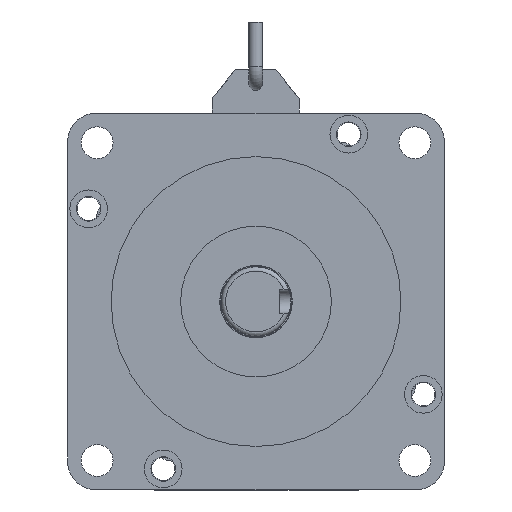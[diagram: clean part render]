
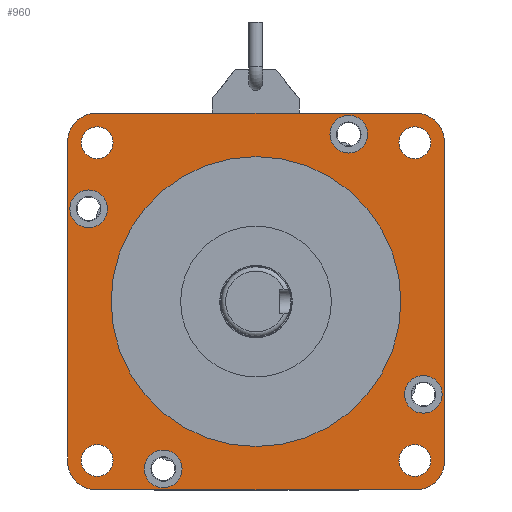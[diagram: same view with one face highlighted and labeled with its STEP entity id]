
A CAD part, front view. The second image highlights one B-rep face of the part: STEP entity #960.
In plain terms, the highlighted planar face has unit normal (0, -1, 0).
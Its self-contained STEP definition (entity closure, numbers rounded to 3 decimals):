
#960=ADVANCED_FACE('',(#3285,#3286,#3287,#3288,#3289,#3290,#3291,#3292,
#3293,#3294),#1276,.T.);
#1276=PLANE('',#8758);
#2117=LINE('',#13292,#2979);
#2124=LINE('',#13306,#2986);
#2131=LINE('',#13320,#2993);
#2138=LINE('',#13334,#3000);
#2979=VECTOR('',#10678,1.);
#2986=VECTOR('',#10687,1.);
#2993=VECTOR('',#10696,1.);
#3000=VECTOR('',#10705,1.);
#3285=FACE_BOUND('',#3895,.T.);
#3286=FACE_BOUND('',#3896,.T.);
#3287=FACE_BOUND('',#3897,.T.);
#3288=FACE_BOUND('',#3898,.T.);
#3289=FACE_BOUND('',#3899,.T.);
#3290=FACE_BOUND('',#3900,.T.);
#3291=FACE_BOUND('',#3901,.T.);
#3292=FACE_BOUND('',#3902,.T.);
#3293=FACE_BOUND('',#3903,.T.);
#3294=FACE_BOUND('',#3904,.T.);
#3895=EDGE_LOOP('',(#5976));
#3896=EDGE_LOOP('',(#5977));
#3897=EDGE_LOOP('',(#5978));
#3898=EDGE_LOOP('',(#5979));
#3899=EDGE_LOOP('',(#5980));
#3900=EDGE_LOOP('',(#5981));
#3901=EDGE_LOOP('',(#5982));
#3902=EDGE_LOOP('',(#5983));
#3903=EDGE_LOOP('',(#5984));
#3904=EDGE_LOOP('',(#5985,#5986,#5987,#5988,#5989,#5990,#5991,#5992));
#5976=ORIENTED_EDGE('',*,*,#7923,.T.);
#5977=ORIENTED_EDGE('',*,*,#7921,.T.);
#5978=ORIENTED_EDGE('',*,*,#7919,.T.);
#5979=ORIENTED_EDGE('',*,*,#7917,.T.);
#5980=ORIENTED_EDGE('',*,*,#7908,.T.);
#5981=ORIENTED_EDGE('',*,*,#7906,.T.);
#5982=ORIENTED_EDGE('',*,*,#7904,.T.);
#5983=ORIENTED_EDGE('',*,*,#7910,.T.);
#5984=ORIENTED_EDGE('',*,*,#7926,.T.);
#5985=ORIENTED_EDGE('',*,*,#7888,.F.);
#5986=ORIENTED_EDGE('',*,*,#7897,.T.);
#5987=ORIENTED_EDGE('',*,*,#7895,.F.);
#5988=ORIENTED_EDGE('',*,*,#7903,.T.);
#5989=ORIENTED_EDGE('',*,*,#7874,.F.);
#5990=ORIENTED_EDGE('',*,*,#7901,.T.);
#5991=ORIENTED_EDGE('',*,*,#7881,.F.);
#5992=ORIENTED_EDGE('',*,*,#7899,.T.);
#6812=VERTEX_POINT('',#13281);
#6817=VERTEX_POINT('',#13291);
#6818=VERTEX_POINT('',#13295);
#6823=VERTEX_POINT('',#13305);
#6824=VERTEX_POINT('',#13309);
#6829=VERTEX_POINT('',#13319);
#6830=VERTEX_POINT('',#13323);
#6835=VERTEX_POINT('',#13333);
#6836=VERTEX_POINT('',#13349);
#6838=VERTEX_POINT('',#13354);
#6840=VERTEX_POINT('',#13359);
#6842=VERTEX_POINT('',#13364);
#6849=VERTEX_POINT('',#13383);
#6851=VERTEX_POINT('',#13388);
#6853=VERTEX_POINT('',#13393);
#6855=VERTEX_POINT('',#13398);
#6858=VERTEX_POINT('',#13407);
#7874=EDGE_CURVE('',#6817,#6812,#2117,.T.);
#7881=EDGE_CURVE('',#6823,#6818,#2124,.T.);
#7888=EDGE_CURVE('',#6829,#6824,#2131,.T.);
#7895=EDGE_CURVE('',#6835,#6830,#2138,.T.);
#7897=EDGE_CURVE('',#6829,#6830,#8131,.T.);
#7899=EDGE_CURVE('',#6823,#6824,#8133,.T.);
#7901=EDGE_CURVE('',#6817,#6818,#8135,.T.);
#7903=EDGE_CURVE('',#6835,#6812,#8137,.T.);
#7904=EDGE_CURVE('',#6836,#6836,#8138,.T.);
#7906=EDGE_CURVE('',#6838,#6838,#8140,.T.);
#7908=EDGE_CURVE('',#6840,#6840,#8142,.T.);
#7910=EDGE_CURVE('',#6842,#6842,#8144,.T.);
#7917=EDGE_CURVE('',#6849,#6849,#8151,.T.);
#7919=EDGE_CURVE('',#6851,#6851,#8153,.T.);
#7921=EDGE_CURVE('',#6853,#6853,#8155,.T.);
#7923=EDGE_CURVE('',#6855,#6855,#8157,.T.);
#7926=EDGE_CURVE('',#6858,#6858,#8160,.T.);
#8131=CIRCLE('',#8709,10.);
#8133=CIRCLE('',#8712,10.);
#8135=CIRCLE('',#8715,10.);
#8137=CIRCLE('',#8718,10.);
#8138=CIRCLE('',#8720,5.5);
#8140=CIRCLE('',#8723,5.5);
#8142=CIRCLE('',#8726,5.5);
#8144=CIRCLE('',#8729,5.5);
#8151=CIRCLE('',#8741,6.5);
#8153=CIRCLE('',#8744,6.5);
#8155=CIRCLE('',#8747,6.5);
#8157=CIRCLE('',#8750,6.5);
#8160=CIRCLE('',#8756,50.);
#8709=AXIS2_PLACEMENT_3D('',#13337,#10710,#10711);
#8712=AXIS2_PLACEMENT_3D('',#13340,#10716,#10717);
#8715=AXIS2_PLACEMENT_3D('',#13343,#10722,#10723);
#8718=AXIS2_PLACEMENT_3D('',#13346,#10728,#10729);
#8720=AXIS2_PLACEMENT_3D('',#13348,#10732,#10733);
#8723=AXIS2_PLACEMENT_3D('',#13353,#10738,#10739);
#8726=AXIS2_PLACEMENT_3D('',#13358,#10744,#10745);
#8729=AXIS2_PLACEMENT_3D('',#13363,#10750,#10751);
#8741=AXIS2_PLACEMENT_3D('',#13382,#10774,#10775);
#8744=AXIS2_PLACEMENT_3D('',#13387,#10780,#10781);
#8747=AXIS2_PLACEMENT_3D('',#13392,#10786,#10787);
#8750=AXIS2_PLACEMENT_3D('',#13397,#10792,#10793);
#8756=AXIS2_PLACEMENT_3D('',#13406,#10804,#10805);
#8758=AXIS2_PLACEMENT_3D('',#13409,#10808,#10809);
#10678=DIRECTION('',(0.,0.,1.));
#10687=DIRECTION('',(-1.,0.,0.));
#10696=DIRECTION('',(0.,0.,-1.));
#10705=DIRECTION('',(1.,0.,0.));
#10710=DIRECTION('',(0.,-1.,0.));
#10711=DIRECTION('',(-1.,0.,0.));
#10716=DIRECTION('',(0.,-1.,0.));
#10717=DIRECTION('',(-1.,0.,0.));
#10722=DIRECTION('',(0.,-1.,0.));
#10723=DIRECTION('',(-1.,0.,0.));
#10728=DIRECTION('',(0.,-1.,0.));
#10729=DIRECTION('',(-1.,0.,0.));
#10732=DIRECTION('',(0.,1.,0.));
#10733=DIRECTION('',(0.,0.,1.));
#10738=DIRECTION('',(0.,1.,0.));
#10739=DIRECTION('',(-1.,0.,0.));
#10744=DIRECTION('',(0.,1.,0.));
#10745=DIRECTION('',(0.,0.,-1.));
#10750=DIRECTION('',(0.,1.,0.));
#10751=DIRECTION('',(1.,0.,0.));
#10774=DIRECTION('',(0.,1.,0.));
#10775=DIRECTION('',(0.,0.,1.));
#10780=DIRECTION('',(0.,1.,0.));
#10781=DIRECTION('',(-1.,0.,0.));
#10786=DIRECTION('',(0.,1.,0.));
#10787=DIRECTION('',(0.,0.,-1.));
#10792=DIRECTION('',(0.,1.,0.));
#10793=DIRECTION('',(1.,0.,0.));
#10804=DIRECTION('',(0.,1.,0.));
#10805=DIRECTION('',(-1.,0.,0.));
#10808=DIRECTION('',(0.,-1.,0.));
#10809=DIRECTION('',(-1.,0.,0.));
#13281=CARTESIAN_POINT('',(478.536,-994.118,102.721));
#13291=CARTESIAN_POINT('',(478.536,-994.118,-7.279));
#13292=CARTESIAN_POINT('',(478.536,-994.118,47.721));
#13295=CARTESIAN_POINT('',(488.536,-994.118,-17.279));
#13305=CARTESIAN_POINT('',(598.536,-994.118,-17.279));
#13306=CARTESIAN_POINT('',(543.536,-994.118,-17.279));
#13309=CARTESIAN_POINT('',(608.536,-994.118,-7.279));
#13319=CARTESIAN_POINT('',(608.536,-994.118,102.721));
#13320=CARTESIAN_POINT('',(608.536,-994.118,47.721));
#13323=CARTESIAN_POINT('',(598.536,-994.118,112.721));
#13333=CARTESIAN_POINT('',(488.536,-994.118,112.721));
#13334=CARTESIAN_POINT('',(543.536,-994.118,112.721));
#13337=CARTESIAN_POINT('',(598.536,-994.118,102.721));
#13340=CARTESIAN_POINT('',(598.536,-994.118,-7.279));
#13343=CARTESIAN_POINT('',(488.536,-994.118,-7.279));
#13346=CARTESIAN_POINT('',(488.536,-994.118,102.721));
#13348=CARTESIAN_POINT('',(598.337,-994.118,102.522));
#13349=CARTESIAN_POINT('',(598.337,-994.118,108.022));
#13353=CARTESIAN_POINT('',(488.736,-994.118,102.522));
#13354=CARTESIAN_POINT('',(483.236,-994.118,102.522));
#13358=CARTESIAN_POINT('',(488.736,-994.118,-7.079));
#13359=CARTESIAN_POINT('',(488.736,-994.118,-12.579));
#13363=CARTESIAN_POINT('',(598.337,-994.118,-7.079));
#13364=CARTESIAN_POINT('',(603.837,-994.118,-7.079));
#13382=CARTESIAN_POINT('',(601.261,-994.118,15.724));
#13383=CARTESIAN_POINT('',(601.261,-994.118,22.224));
#13387=CARTESIAN_POINT('',(575.534,-994.118,105.446));
#13388=CARTESIAN_POINT('',(569.034,-994.118,105.446));
#13392=CARTESIAN_POINT('',(485.811,-994.118,79.719));
#13393=CARTESIAN_POINT('',(485.811,-994.118,73.219));
#13397=CARTESIAN_POINT('',(511.539,-994.118,-10.004));
#13398=CARTESIAN_POINT('',(518.039,-994.118,-10.004));
#13406=CARTESIAN_POINT('',(543.536,-994.118,47.721));
#13407=CARTESIAN_POINT('',(493.536,-994.118,47.721));
#13409=CARTESIAN_POINT('',(543.536,-994.118,47.721));
